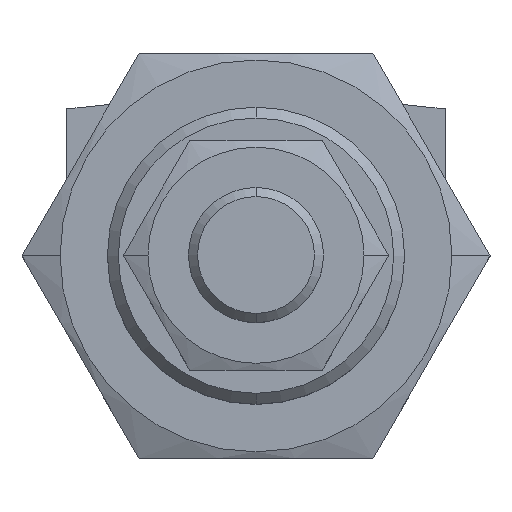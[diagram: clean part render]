
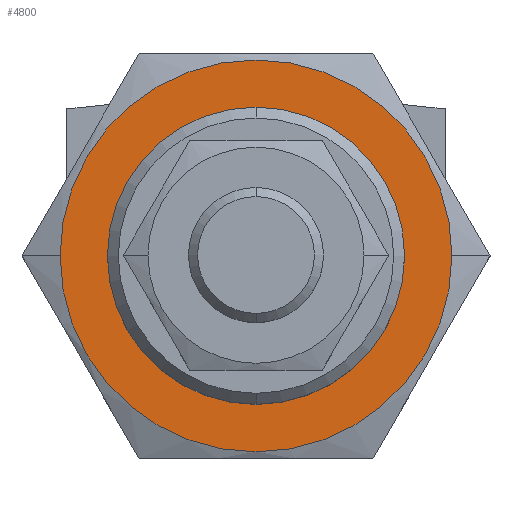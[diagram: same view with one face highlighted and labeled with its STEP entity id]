
A CAD part, top view. The second image highlights one B-rep face of the part: STEP entity #4800.
In plain terms, the highlighted planar face has unit normal (0, 0, 1).
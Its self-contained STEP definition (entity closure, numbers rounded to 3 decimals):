
#4347=CARTESIAN_POINT('',(0.,0.,0.));
#4348=DIRECTION('',(0.,0.,1.));
#4349=DIRECTION('',(0.,1.,0.));
#4350=AXIS2_PLACEMENT_3D('',#4347,#4348,#4349);
#4352=CARTESIAN_POINT('',(0.,0.,0.));
#4353=DIRECTION('',(0.,0.,1.));
#4354=DIRECTION('',(0.,-1.,0.));
#4355=AXIS2_PLACEMENT_3D('',#4352,#4353,#4354);
#4357=CARTESIAN_POINT('',(0.,0.,0.));
#4358=DIRECTION('',(0.,0.,1.));
#4359=DIRECTION('',(0.,1.,0.));
#4360=AXIS2_PLACEMENT_3D('',#4357,#4358,#4359);
#4362=CARTESIAN_POINT('',(0.,0.,0.));
#4363=DIRECTION('',(0.,0.,1.));
#4364=DIRECTION('',(0.,-1.,0.));
#4365=AXIS2_PLACEMENT_3D('',#4362,#4363,#4364);
#4755=CARTESIAN_POINT('',(0.,11.,0.));
#4756=CARTESIAN_POINT('',(0.,-11.,0.));
#4757=VERTEX_POINT('',#4755);
#4758=VERTEX_POINT('',#4756);
#4759=CARTESIAN_POINT('',(0.,14.5,0.));
#4760=CARTESIAN_POINT('',(0.,-14.5,0.));
#4761=VERTEX_POINT('',#4759);
#4762=VERTEX_POINT('',#4760);
#4783=CARTESIAN_POINT('',(0.,0.,0.));
#4784=DIRECTION('',(0.,0.,-1.));
#4785=DIRECTION('',(0.,-1.,0.));
#4786=AXIS2_PLACEMENT_3D('',#4783,#4784,#4785);
#4787=PLANE('',#4786);
#4789=ORIENTED_EDGE('',*,*,#4788,.F.);
#4791=ORIENTED_EDGE('',*,*,#4790,.F.);
#4792=EDGE_LOOP('',(#4789,#4791));
#4793=FACE_OUTER_BOUND('',#4792,.F.);
#4795=ORIENTED_EDGE('',*,*,#4794,.T.);
#4797=ORIENTED_EDGE('',*,*,#4796,.T.);
#4798=EDGE_LOOP('',(#4795,#4797));
#4799=FACE_BOUND('',#4798,.F.);
#4800=ADVANCED_FACE('',(#4793,#4799),#4787,.F.);
#4351=CIRCLE('',#4350,11.);
#4356=CIRCLE('',#4355,11.);
#4361=CIRCLE('',#4360,14.5);
#4366=CIRCLE('',#4365,14.5);
#4788=EDGE_CURVE('',#4761,#4762,#4361,.T.);
#4790=EDGE_CURVE('',#4762,#4761,#4366,.T.);
#4794=EDGE_CURVE('',#4757,#4758,#4351,.T.);
#4796=EDGE_CURVE('',#4758,#4757,#4356,.T.);
